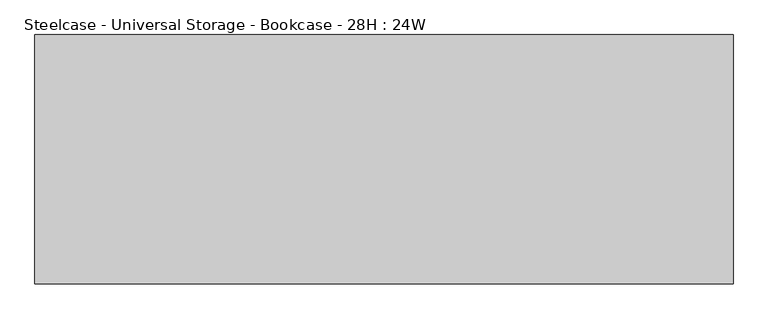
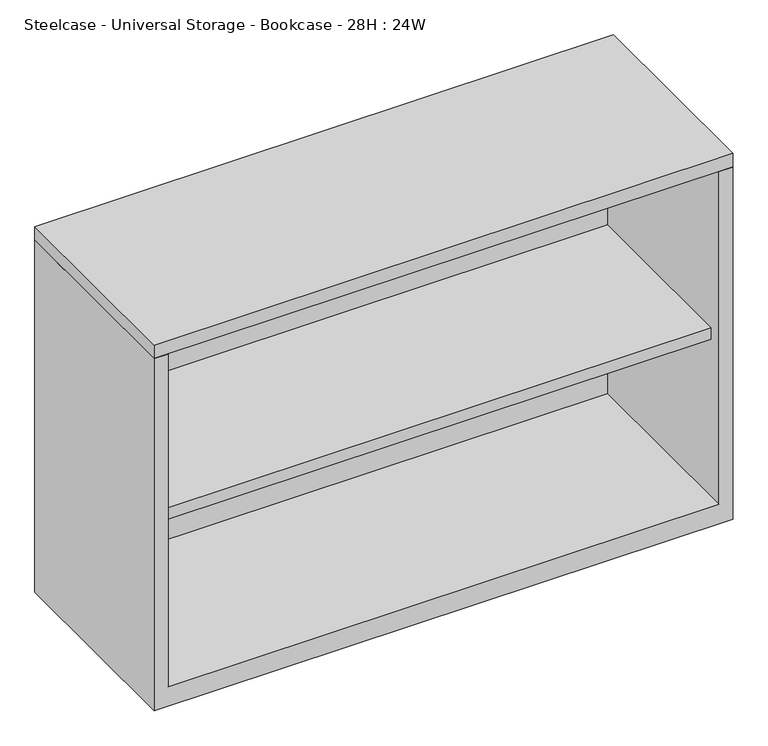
"""IFC4 building model written with IfcOpenShell, lengths in millimetres: furniture geometry, Steelcase - Universal Storage - Bookcase - 28H : 24W."""

from ifc_helpers import new_model, si_unit, frame, origin, place, context, project, spatial, polyline, outline, extrude, faceted_brep, source, transform, mapped, element, save


def steelcase_universal_storage_bookcase_28h_24w_44185db5(model_context):
    return source(origin(), model_context, "Body", "SolidModel", [
        extrude(outline(polyline([(1066.8, -98.552), (1066.8, -479.552), (0.0, -479.552), (0.0, -98.552), (1066.8, -98.552)])), frame((0.0, 0.0, 687.3239516), z_axis=(0.0, 0.0, 1.0), x_axis=(1.0, 0.0, 0.0)), (0.0, 0.0, 1.0), 25.4),
        extrude(outline(polyline([(1041.4000242, -123.9520008), (1041.4000242, -454.0250121), (25.4000008, -454.0250121), (25.4000008, -123.9520008), (1041.4000242, -123.9520008)])), frame((0.0, 0.0, 344.424), z_axis=(0.0, 0.0, 1.0), x_axis=(1.0, 0.0, 0.0)), (0.0, 0.0, 1.0), 22.2249516),
        faceted_brep([(25.4000008, -479.552, 38.1), (1041.4000242, -479.552, 38.1), (1041.4000242, -123.9520008, 38.1), (25.4000008, -123.9520008, 38.1), (1066.8, -98.552, 0.0), (1066.8, -479.552, 0.0), (0.0, -479.552, 0.0), (0.0, -98.552, 0.0), (0.0, -98.552, 685.8), (1066.8, -98.552, 685.8), (0.0, -479.552, 685.8), (1066.8, -479.552, 685.8), (1041.4000242, -479.552, 685.8), (25.4000008, -479.552, 685.8), (1041.4000242, -123.9520008, 685.8), (25.4000008, -123.9520008, 685.8)], [[[0, 1, 2, 3]], [[4, 5, 6, 7]], [[4, 7, 8, 9]], [[8, 7, 6, 10]], [[10, 6, 5, 11, 12, 1, 0, 13]], [[11, 5, 4, 9]], [[14, 12, 11, 9, 8, 10, 13, 15]], [[12, 14, 2, 1]], [[15, 13, 0, 3]], [[14, 15, 3, 2]]]),
    ])


if __name__ == "__main__":
    model = new_model("IFC4")
    model_context = context("Model", 3, world=origin())
    ifc_project = project(units=[si_unit("LENGTHUNIT", "METRE", prefix="MILLI")], contexts=[model_context])
    site = spatial("IfcSite", under=ifc_project)
    building = spatial("IfcBuilding", under=site)
    placement = place(None, origin())
    steelcase_universal_storage_bookcase_28h_24w_shape = steelcase_universal_storage_bookcase_28h_24w_44185db5(model_context)
    element("IfcFurniture", 1, ObjectType="Steelcase - Universal Storage - Bookcase - 28H : 24W", at=placement, inside=building, context=model_context, shape_type="MappedRepresentation", body=[
        mapped(steelcase_universal_storage_bookcase_28h_24w_shape, transform((0.0, 0.0, 0.0), x_axis=(1.0, 0.0, 0.0), y_axis=(0.0, 1.0, 0.0), z_axis=(0.0, 0.0, 1.0))),
    ])
    save(model, "model.ifc")
